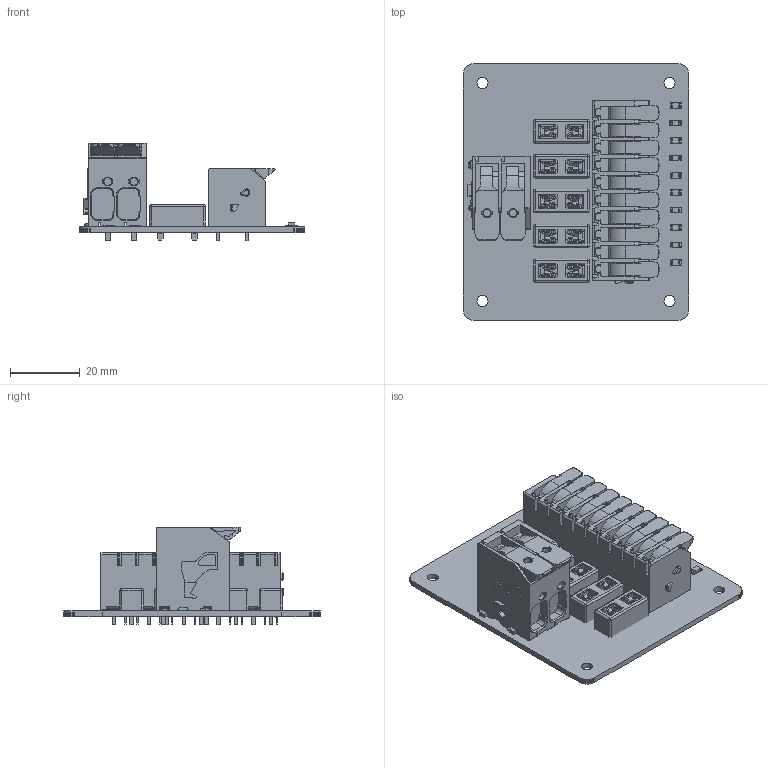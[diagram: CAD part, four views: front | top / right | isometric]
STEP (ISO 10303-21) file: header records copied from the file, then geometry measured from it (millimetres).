
FILE_DESCRIPTION(('KiCad electronic assembly'),'2;1');
FILE_NAME('PowerDistribution.step','2023-11-23T15:16:20',('Pcbnew'),( 'Kicad'),'Open CASCADE STEP processor 7.7','KiCad to STEP converter' ,'Unknown');
FILE_SCHEMA(('AUTOMOTIVE_DESIGN { 1 0 10303 214 1 1 1 1 }'));
Length unit declared in the file: millimetre
Products named in the file (10): PowerDistribution 1; LED_1206_3216Metric; SOLID; 3568--3DModel-STEP-630548; COMPOUND; 2604-1110; 2606-1102_000-005; PowerDistribution PCB
Assembly tree (22 placements, depth 3):
  PowerDistribution 1
    LED_1206_3216Metric  x10
      SOLID
    3568--3DModel-STEP-630548  x5
      COMPOUND
    2604-1110
      SOLID
    2606-1102_000-005
      SOLID
    PowerDistribution PCB
Bounding box: 64.77 x 73.78 x 28 mm (x, y, z)
Volume: 30098.4 mm3; surface area: 28440.2 mm2
Topology: 28 solids, 28 shells, 3558 faces, 9464 edges, 6032 vertices
Faces by surface type: plane 2394, cylinder 845, cone 139, sphere 100, torus 40, revolution 40
Full cylindrical faces by diameter (mm): 1.397 x20, 1.8 x20, 2.108 x4, 2.2 x4, 3.175 x4
Entity records: 155557 total; most frequent: CARTESIAN_POINT 36028, DIRECTION 20473, LINE 12756, VECTOR 12756, ORIENTED_EDGE 10798, PCURVE 10798, DEFINITIONAL_REPRESENTATION 10798, EDGE_CURVE 5399
